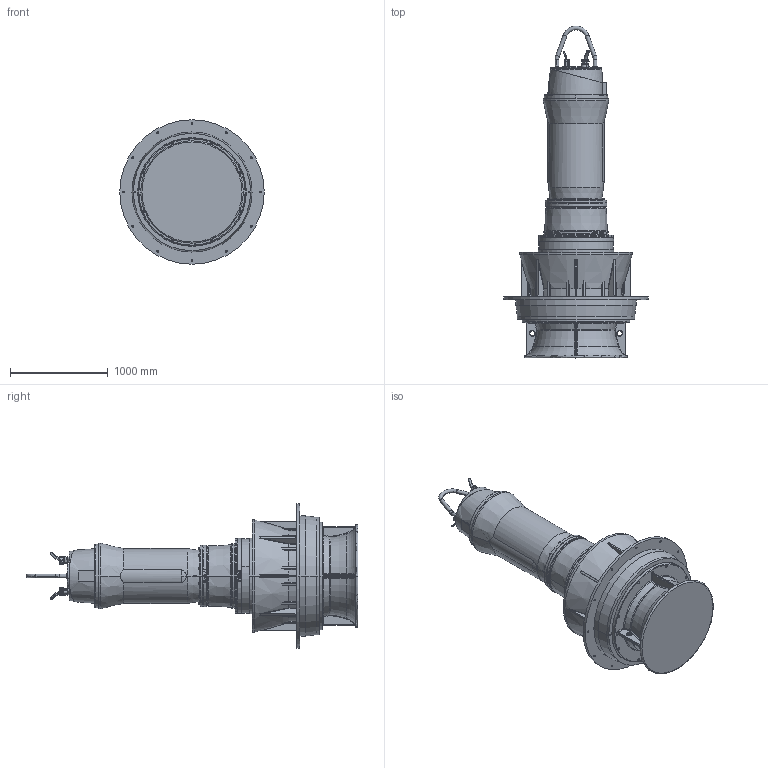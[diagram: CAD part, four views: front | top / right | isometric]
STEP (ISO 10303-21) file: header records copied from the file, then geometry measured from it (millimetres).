
FILE_DESCRIPTION (( 'STEP AP214' ), '1' );
FILE_NAME ('PE6_VUPX1000 G3_FU_B_NG2.STEP', '2017-04-24T08:31:22', ( '' ), ( '' ), 'SwSTEP 2.0', 'SolidWorks 2017', '' );
FILE_SCHEMA (( 'AUTOMOTIVE_DESIGN' ));
Length unit declared in the file: millimetre
Products named in the file (1): PE6_VUPX1000 G3_FU_B_NG2
Bounding box: 1480 x 3399 x 1480 mm (x, y, z)
Volume: 1406968589.4 mm3; surface area: 14407517.9 mm2
Topology: 4 solids, 41 shells, 3136 faces, 7510 edges, 4455 vertices
Faces by surface type: plane 949, cylinder 934, bspline 410, cone 364, torus 364, sphere 115
Entity records: 153368 total; most frequent: CARTESIAN_POINT 49344, ORIENTED_EDGE 14692, DIRECTION 14189, EDGE_CURVE 7346, AXIS2_PLACEMENT_3D 5650, VERTEX_POINT 4450, EDGE_LOOP 3424, UNCERTAINTY_MEASURE_WITH_UNIT 3142
